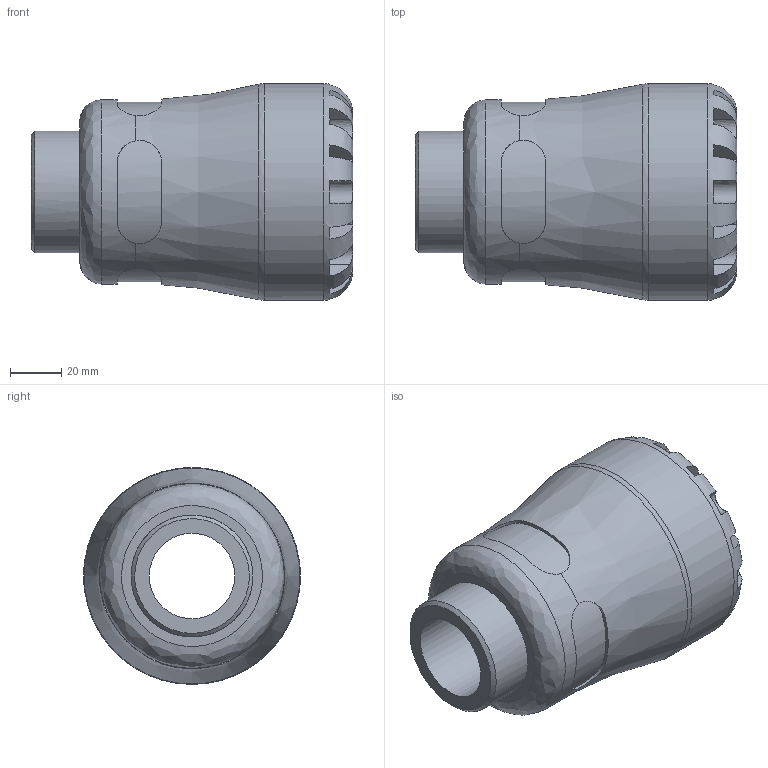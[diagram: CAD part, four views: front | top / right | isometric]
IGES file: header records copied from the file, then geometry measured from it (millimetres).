
Global section: file name: 157200050015; native system: Autodesk Inventor 2019; preprocessor: unknown; author: KIM; date: 20231021.230241; units: millimetre
Bounding box: 126 x 85 x 85 mm (x, y, z)
Volume: 330964.6 mm3; surface area: 55506.4 mm2
Topology: 1 solids, 1 shells, 99 faces, 269 edges, 174 vertices
Faces by surface type: bspline 99
